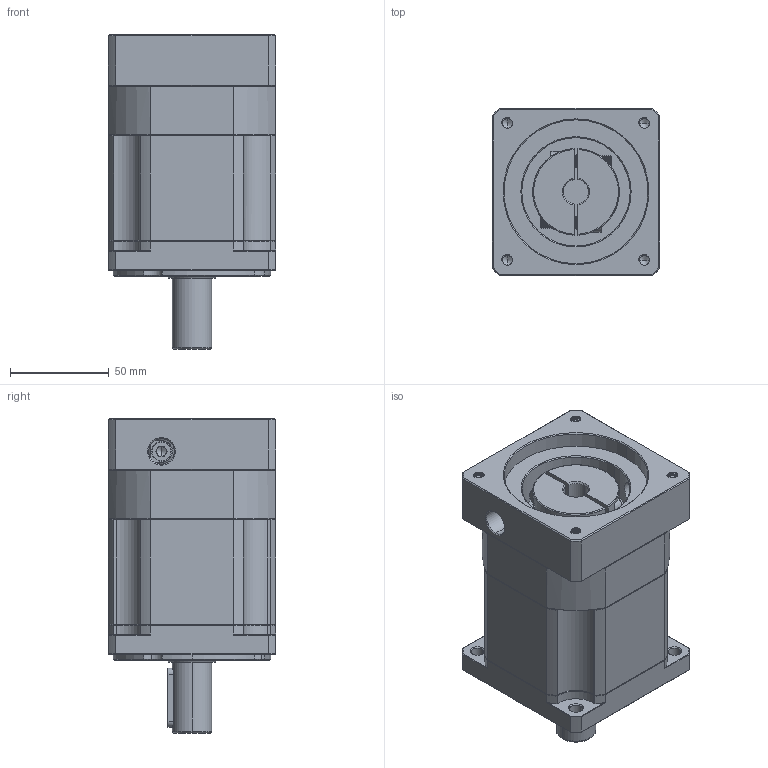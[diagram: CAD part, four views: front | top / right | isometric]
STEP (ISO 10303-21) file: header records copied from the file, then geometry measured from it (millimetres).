
FILE_DESCRIPTION (( 'STEP AP214' ), '1' );
FILE_NAME ('ZB090-D20-L2-P2-12.7-73-69.6X69.6-M6.step', '2023-08-18T12:09:43', ( '' ), ( '' ), 'SwSTEP 2.0', 'SolidWorks 2016', '' );
FILE_SCHEMA (( 'AUTOMOTIVE_DESIGN' ));
Length unit declared in the file: millimetre
Products named in the file (1): ZB090-D20-L2-P2-12.7-73-69.6X69.6-M6
Bounding box: 85 x 85 x 159.5 mm (x, y, z)
Volume: 728972.9 mm3; surface area: 92422.7 mm2
Topology: 4 solids, 5 shells, 2217 faces, 5883 edges, 3751 vertices
Faces by surface type: plane 1062, bspline 397, cylinder 396, cone 335, torus 27
Entity records: 120546 total; most frequent: CARTESIAN_POINT 44503, ORIENTED_EDGE 11722, DIRECTION 9175, EDGE_CURVE 5861, VERTEX_POINT 3751, LINE 3725, VECTOR 3725, AXIS2_PLACEMENT_3D 2725
